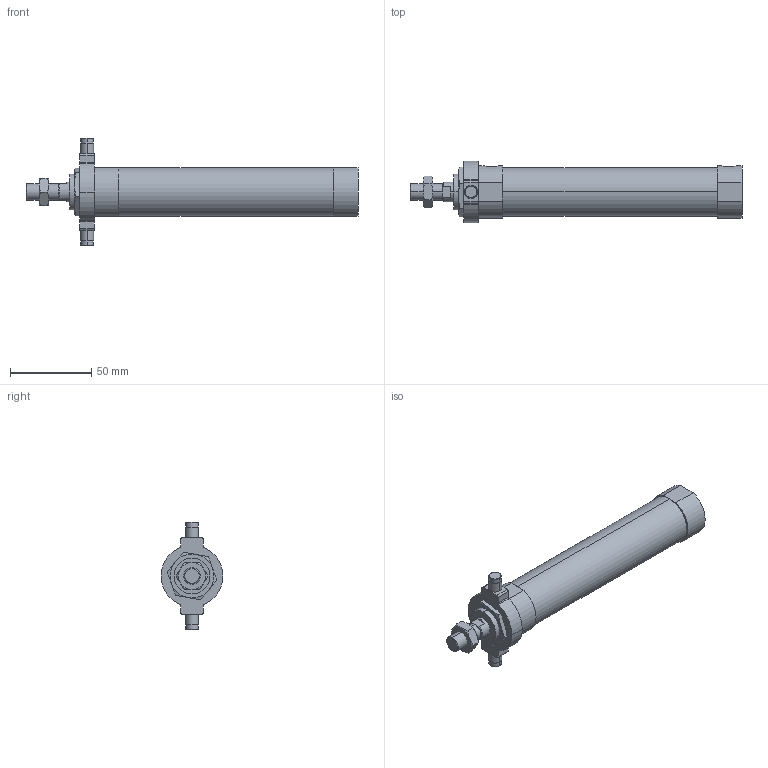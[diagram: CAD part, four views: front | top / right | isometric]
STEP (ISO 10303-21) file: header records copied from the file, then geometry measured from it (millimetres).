
FILE_DESCRIPTION (( 'STEP AP203' ), '1' );
FILE_NAME ('JGND2-25-100-T.STEP', '2016-08-04T02:40:46', ( '' ), ( '' ), 'SwSTEP 2.0', 'SolidWorks 2014', '' );
FILE_SCHEMA (( 'CONFIG_CONTROL_DESIGN' ));
Length unit declared in the file: millimetre
Products named in the file (5): J#2-25-T; JGND2-25-100-T; J#2-25-100(P)
Assembly tree (4 placements, depth 2):
  JGND2-25-100-T
    J#2-25-100(P)
    (unnamed)
    J#2-25-T
    (unnamed)
Bounding box: 204 x 38 x 66 mm (x, y, z)
Volume: 132994.5 mm3; surface area: 26353.4 mm2
Topology: 4 solids, 4 shells, 128 faces, 291 edges, 174 vertices
Faces by surface type: plane 45, cylinder 43, torus 24, cone 16
Entity records: 4380 total; most frequent: CARTESIAN_POINT 1020, DIRECTION 619, ORIENTED_EDGE 574, EDGE_CURVE 287, AXIS2_PLACEMENT_3D 253, VERTEX_POINT 174, EDGE_LOOP 141, FACE_OUTER_BOUND 128
